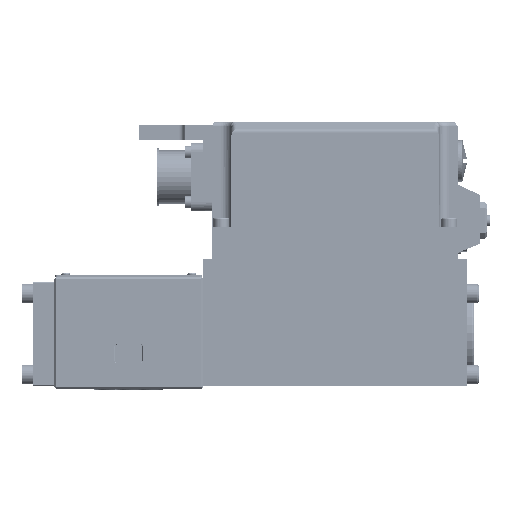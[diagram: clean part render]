
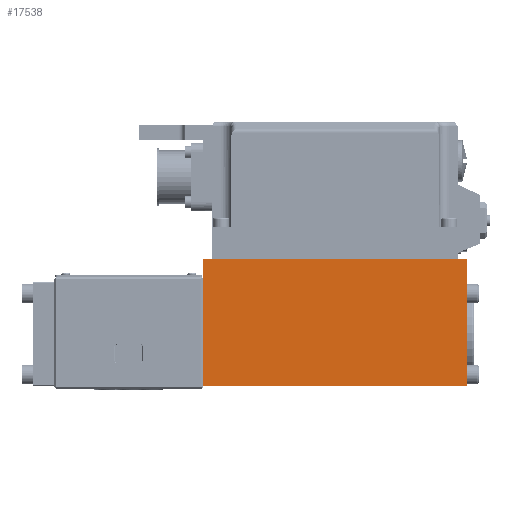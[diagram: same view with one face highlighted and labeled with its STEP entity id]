
A CAD part, top view. The second image highlights one B-rep face of the part: STEP entity #17538.
In plain terms, the highlighted planar face has unit normal (0, 0, 1).
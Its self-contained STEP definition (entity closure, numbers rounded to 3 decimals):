
#2260=LINE('',#112483,#3586);
#2261=LINE('',#112485,#3587);
#2262=LINE('',#112487,#3588);
#2263=LINE('',#112489,#3589);
#3586=VECTOR('',#25004,1.);
#3587=VECTOR('',#25007,1.);
#3588=VECTOR('',#25008,1.);
#3589=VECTOR('',#25009,1.);
#4479=PLANE('',#21644);
#5194=FACE_OUTER_BOUND('',#6354,.T.);
#6354=EDGE_LOOP('',(#9684,#9685,#9686,#9687));
#9684=ORIENTED_EDGE('',*,*,#13707,.F.);
#9685=ORIENTED_EDGE('',*,*,#13706,.T.);
#9686=ORIENTED_EDGE('',*,*,#13708,.T.);
#9687=ORIENTED_EDGE('',*,*,#13709,.F.);
#13706=EDGE_CURVE('',#19842,#19843,#2260,.T.);
#13707=EDGE_CURVE('',#19842,#19844,#2261,.T.);
#13708=EDGE_CURVE('',#19843,#19845,#2262,.T.);
#13709=EDGE_CURVE('',#19844,#19845,#2263,.T.);
#17538=ADVANCED_FACE('',(#5194),#4479,.F.);
#19842=VERTEX_POINT('',#112480);
#19843=VERTEX_POINT('',#112482);
#19844=VERTEX_POINT('',#112486);
#19845=VERTEX_POINT('',#112488);
#21644=AXIS2_PLACEMENT_3D('',#112490,#25010,#25011);
#25004=DIRECTION('',(-1.,0.,0.));
#25007=DIRECTION('',(0.,-1.,0.));
#25008=DIRECTION('',(0.,-1.,0.));
#25009=DIRECTION('',(-1.,0.,0.));
#25010=DIRECTION('',(0.,0.,-1.));
#25011=DIRECTION('',(0.,1.,0.));
#112480=CARTESIAN_POINT('',(274.024,129.121,41.073));
#112482=CARTESIAN_POINT('',(159.024,129.121,41.073));
#112483=CARTESIAN_POINT('',(274.024,129.121,41.073));
#112485=CARTESIAN_POINT('',(274.024,129.121,41.073));
#112486=CARTESIAN_POINT('',(274.024,74.121,41.073));
#112487=CARTESIAN_POINT('',(159.024,129.121,41.073));
#112488=CARTESIAN_POINT('',(159.024,74.121,41.073));
#112489=CARTESIAN_POINT('',(274.024,74.121,41.073));
#112490=CARTESIAN_POINT('',(274.024,129.121,41.073));
